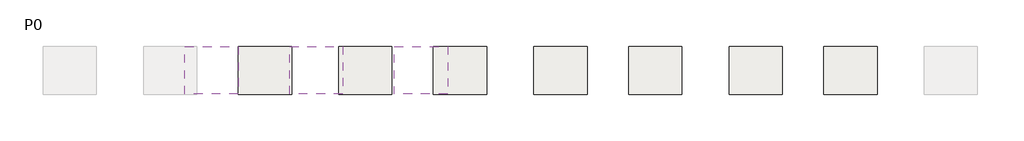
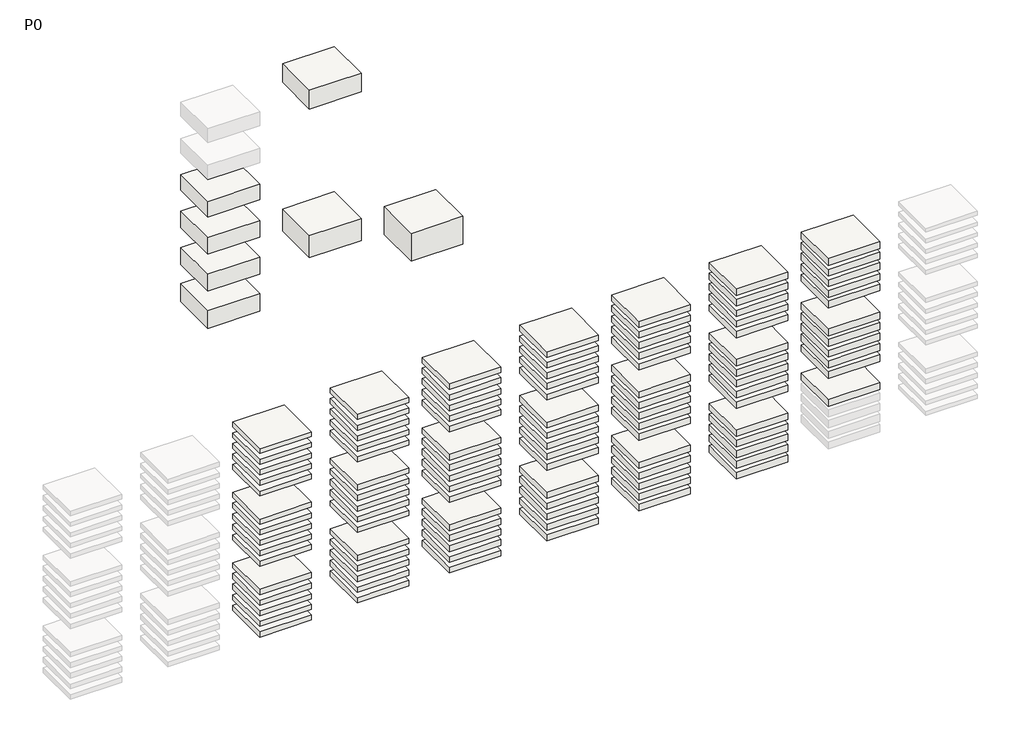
# One storey, part 2 of 11: 108 slabs.
"""IFC4 building model written with IfcOpenShell, lengths in millimetres."""

from ifc_helpers import new_model, si_unit, frame, origin, place, context, project, spatial, polyline, outline, extrude, element, save

model = new_model("IFC4")

# Units and contexts
model_context = context("Model", 3, world=origin())
ifc_project = project(units=[si_unit("LENGTHUNIT", "METRE", prefix="MILLI")], contexts=[model_context])

# Site, building, storey
site = spatial("IfcSite", under=ifc_project)
building = spatial("IfcBuilding", under=site)
storey = spatial("IfcBuildingStorey", under=building, Name="P0", Elevation=0.0)

# Slabs
placement = place(None, origin())
element("IfcSlab", 1, ObjectType="INTERCAPEDINE VENTILATA H85", at=placement, inside=storey, context=model_context, shape_type="SweptSolid", body=[
    extrude(outline(polyline([(-10155.6696558, 1686.0689128), (-10155.6696558, -1013.9310872), (-13155.6696558, -1013.9310872), (-13155.6696558, 1686.0689128), (-10155.6696558, 1686.0689128)])), frame((0.0, 0.0, 8050.0), z_axis=(0.0, 0.0, 1.0), x_axis=(1.0, 0.0, 0.0)), (0.0, 0.0, 1.0), 950.0),
])
element("IfcSlab", 2, ObjectType="INTERCAPEDINE VENTILATA H90", at=placement, inside=storey, context=model_context, shape_type="SweptSolid", body=[
    extrude(outline(polyline([(-10155.6696558, 1686.0689128), (-10155.6696558, -1013.9310872), (-13155.6696558, -1013.9310872), (-13155.6696558, 1686.0689128), (-10155.6696558, 1686.0689128)])), frame((0.0, 0.0, 5770.0000022), z_axis=(0.0, 0.0, 1.0), x_axis=(1.0, 0.0, 0.0)), (0.0, 0.0, 1.0), 1000.0),
])
element("IfcSlab", 3, ObjectType="INTERCAPEDINE VENTILATA H95", at=placement, inside=storey, context=model_context, shape_type="SweptSolid", body=[
    extrude(outline(polyline([(-10155.670068, 1686.0689128), (-10155.670068, -1013.9310872), (-13155.670068, -1013.9310872), (-13155.670068, 1686.0689128), (-10155.670068, 1686.0689128)])), frame((0.0, 0.0, 3490.0000022), z_axis=(0.0, 0.0, 1.0), x_axis=(1.0, 0.0, 0.0)), (0.0, 0.0, 1.0), 1050.0),
])
element("IfcSlab", 4, ObjectType="INTERCAPEDINE VENTILATA H100", at=placement, inside=storey, context=model_context, shape_type="SweptSolid", body=[
    extrude(outline(polyline([(-10156.1937558, 1686.0689128), (-10156.1937558, -1013.9310872), (-13156.1937558, -1013.9310872), (-13156.1937558, 1686.0689128), (-10156.1937558, 1686.0689128)])), frame((0.0, 0.0, 1210.0000022), z_axis=(0.0, 0.0, 1.0), x_axis=(1.0, 0.0, 0.0)), (0.0, 0.0, 1.0), 1100.0),
])
element("IfcSlab", 5, ObjectType="INTERCAPEDINE VENTILATA H105", at=placement, inside=storey, context=model_context, shape_type="SweptSolid", body=[
    extrude(outline(polyline([(-4256.1937558, 1686.0689128), (-4256.1937558, -1013.9310872), (-7256.1937558, -1013.9310872), (-7256.1937558, 1686.0689128), (-4256.1937558, 1686.0689128)])), frame((0.0, 0.0, 12610.0000022), z_axis=(0.0, 0.0, 1.0), x_axis=(1.0, 0.0, 0.0)), (0.0, 0.0, 1.0), 1150.0),
])
element("IfcSlab", 6, ObjectType="INTERCAPEDINE VENTILATA H125", at=placement, inside=storey, context=model_context, shape_type="SweptSolid", body=[
    extrude(outline(polyline([(-4256.1937558, 1686.0689128), (-4256.1937558, -1013.9310872), (-7256.1937558, -1013.9310872), (-7256.1937558, 1686.0689128), (-4256.1937558, 1686.0689128)])), frame((0.0, 0.0, 3490.0000022), z_axis=(0.0, 0.0, 1.0), x_axis=(1.0, 0.0, 0.0)), (0.0, 0.0, 1.0), 1350.0),
])
element("IfcSlab", 7, ObjectType="INTERCAPEDINE VENTILATA H160", at=placement, inside=storey, context=model_context, shape_type="SweptSolid", body=[
    extrude(outline(polyline([(1643.8062442, 1686.0689128), (1643.8062442, -1013.9310872), (-1356.1937558, -1013.9310872), (-1356.1937558, 1686.0689128), (1643.8062442, 1686.0689128)])), frame((0.0, 0.0, 1210.0000022), z_axis=(0.0, 0.0, 1.0), x_axis=(1.0, 0.0, 0.0)), (0.0, 0.0, 1.0), 1700.0),
])
element("IfcSlab", 8, ObjectType="NNEH16 H8", at=placement, inside=storey, context=model_context, shape_type="SweptSolid", body=[
    extrude(outline(polyline([(-7149.8435929, 1686.0689128), (-7149.8435929, -1013.9310872), (-10149.8435929, -1013.9310872), (-10149.8435929, 1686.0689128), (-7149.8435929, 1686.0689128)])), frame((0.0, 0.0, -7539.5322376), z_axis=(0.0, 0.0, 1.0), x_axis=(1.0, 0.0, 0.0)), (0.0, 0.0, 1.0), 298.0),
])
element("IfcSlab", 9, ObjectType="NNEH16 H8", at=placement, inside=storey, context=model_context, shape_type="SweptSolid", body=[
    extrude(outline(polyline([(-7149.8435929, 1686.0689128), (-7149.8435929, -1013.9310872), (-10149.8435929, -1013.9310872), (-10149.8435929, 1686.0689128), (-7149.8435929, 1686.0689128)])), frame((0.0, 0.0, -8189.5322376), z_axis=(0.0, 0.0, 1.0), x_axis=(1.0, 0.0, 0.0)), (0.0, 0.0, 1.0), 298.0),
])
element("IfcSlab", 10, ObjectType="NNEH16 H8", at=placement, inside=storey, context=model_context, shape_type="SweptSolid", body=[
    extrude(outline(polyline([(-7149.8435929, 1686.0689128), (-7149.8435929, -1013.9310872), (-10149.8435929, -1013.9310872), (-10149.8435929, 1686.0689128), (-7149.8435929, 1686.0689128)])), frame((0.0, 0.0, -8839.5322376), z_axis=(0.0, 0.0, 1.0), x_axis=(1.0, 0.0, 0.0)), (0.0, 0.0, 1.0), 298.0),
])
element("IfcSlab", 11, ObjectType="NNEH16 H8", at=placement, inside=storey, context=model_context, shape_type="SweptSolid", body=[
    extrude(outline(polyline([(-7149.8435929, 1686.0689128), (-7149.8435929, -1013.9310872), (-10149.8435929, -1013.9310872), (-10149.8435929, 1686.0689128), (-7149.8435929, 1686.0689128)])), frame((0.0, 0.0, -9489.5322376), z_axis=(0.0, 0.0, 1.0), x_axis=(1.0, 0.0, 0.0)), (0.0, 0.0, 1.0), 298.0),
])
element("IfcSlab", 12, ObjectType="NNEH16 H8", at=placement, inside=storey, context=model_context, shape_type="SweptSolid", body=[
    extrude(outline(polyline([(-7149.8435929, 1686.0689128), (-7149.8435929, -1013.9310872), (-10149.8435929, -1013.9310872), (-10149.8435929, 1686.0689128), (-7149.8435929, 1686.0689128)])), frame((0.0, 0.0, -10139.5323192), z_axis=(0.0, 0.0, 1.0), x_axis=(1.0, 0.0, 0.0)), (0.0, 0.0, 1.0), 298.0),
])
element("IfcSlab", 13, ObjectType="NNEH16 H9", at=placement, inside=storey, context=model_context, shape_type="SweptSolid", body=[
    extrude(outline(polyline([(-7149.8435929, 1686.0689128), (-7149.8435929, -1013.9310872), (-10149.8435929, -1013.9310872), (-10149.8435929, 1686.0689128), (-7149.8435929, 1686.0689128)])), frame((0.0, 0.0, -11869.532156), z_axis=(0.0, 0.0, 1.0), x_axis=(1.0, 0.0, 0.0)), (0.0, 0.0, 1.0), 308.0),
])
element("IfcSlab", 14, ObjectType="NNEH16 H9", at=placement, inside=storey, context=model_context, shape_type="SweptSolid", body=[
    extrude(outline(polyline([(-7149.8435929, 1686.0689128), (-7149.8435929, -1013.9310872), (-10149.8435929, -1013.9310872), (-10149.8435929, 1686.0689128), (-7149.8435929, 1686.0689128)])), frame((0.0, 0.0, -12519.532156), z_axis=(0.0, 0.0, 1.0), x_axis=(1.0, 0.0, 0.0)), (0.0, 0.0, 1.0), 308.0),
])
element("IfcSlab", 15, ObjectType="NNEH16 H9", at=placement, inside=storey, context=model_context, shape_type="SweptSolid", body=[
    extrude(outline(polyline([(-7149.8435929, 1686.0689128), (-7149.8435929, -1013.9310872), (-10149.8435929, -1013.9310872), (-10149.8435929, 1686.0689128), (-7149.8435929, 1686.0689128)])), frame((0.0, 0.0, -13169.532156), z_axis=(0.0, 0.0, 1.0), x_axis=(1.0, 0.0, 0.0)), (0.0, 0.0, 1.0), 308.0),
])
element("IfcSlab", 16, ObjectType="NNEH16 H9", at=placement, inside=storey, context=model_context, shape_type="SweptSolid", body=[
    extrude(outline(polyline([(-7149.8435929, 1686.0689128), (-7149.8435929, -1013.9310872), (-10149.8435929, -1013.9310872), (-10149.8435929, 1686.0689128), (-7149.8435929, 1686.0689128)])), frame((0.0, 0.0, -13819.532156), z_axis=(0.0, 0.0, 1.0), x_axis=(1.0, 0.0, 0.0)), (0.0, 0.0, 1.0), 308.0),
])
element("IfcSlab", 17, ObjectType="NNEH16 H9", at=placement, inside=storey, context=model_context, shape_type="SweptSolid", body=[
    extrude(outline(polyline([(-7149.8435929, 1686.0689128), (-7149.8435929, -1013.9310872), (-10149.8435929, -1013.9310872), (-10149.8435929, 1686.0689128), (-7149.8435929, 1686.0689128)])), frame((0.0, 0.0, -14469.532156), z_axis=(0.0, 0.0, 1.0), x_axis=(1.0, 0.0, 0.0)), (0.0, 0.0, 1.0), 308.0),
])
element("IfcSlab", 18, ObjectType="NNEH16 H10", at=placement, inside=storey, context=model_context, shape_type="SweptSolid", body=[
    extrude(outline(polyline([(-7149.8435929, 1686.0689128), (-7149.8435929, -1013.9310872), (-10149.8435929, -1013.9310872), (-10149.8435929, 1686.0689128), (-7149.8435929, 1686.0689128)])), frame((0.0, 0.0, -16199.5322376), z_axis=(0.0, 0.0, 1.0), x_axis=(1.0, 0.0, 0.0)), (0.0, 0.0, 1.0), 318.0),
])
element("IfcSlab", 19, ObjectType="NNEH16 H10", at=placement, inside=storey, context=model_context, shape_type="SweptSolid", body=[
    extrude(outline(polyline([(-7149.8435929, 1686.0689128), (-7149.8435929, -1013.9310872), (-10149.8435929, -1013.9310872), (-10149.8435929, 1686.0689128), (-7149.8435929, 1686.0689128)])), frame((0.0, 0.0, -16849.5322376), z_axis=(0.0, 0.0, 1.0), x_axis=(1.0, 0.0, 0.0)), (0.0, 0.0, 1.0), 318.0),
])
element("IfcSlab", 20, ObjectType="NNEH16 H10", at=placement, inside=storey, context=model_context, shape_type="SweptSolid", body=[
    extrude(outline(polyline([(-7149.8435929, 1686.0689128), (-7149.8435929, -1013.9310872), (-10149.8435929, -1013.9310872), (-10149.8435929, 1686.0689128), (-7149.8435929, 1686.0689128)])), frame((0.0, 0.0, -17499.5322376), z_axis=(0.0, 0.0, 1.0), x_axis=(1.0, 0.0, 0.0)), (0.0, 0.0, 1.0), 318.0),
])
element("IfcSlab", 21, ObjectType="NNEH16 H10", at=placement, inside=storey, context=model_context, shape_type="SweptSolid", body=[
    extrude(outline(polyline([(-7149.8435929, 1686.0689128), (-7149.8435929, -1013.9310872), (-10149.8435929, -1013.9310872), (-10149.8435929, 1686.0689128), (-7149.8435929, 1686.0689128)])), frame((0.0, 0.0, -18149.5322376), z_axis=(0.0, 0.0, 1.0), x_axis=(1.0, 0.0, 0.0)), (0.0, 0.0, 1.0), 318.0),
])
element("IfcSlab", 22, ObjectType="NNEH16 H10", at=placement, inside=storey, context=model_context, shape_type="SweptSolid", body=[
    extrude(outline(polyline([(-7149.8435929, 1686.0689128), (-7149.8435929, -1013.9310872), (-10149.8435929, -1013.9310872), (-10149.8435929, 1686.0689128), (-7149.8435929, 1686.0689128)])), frame((0.0, 0.0, -18799.5322376), z_axis=(0.0, 0.0, 1.0), x_axis=(1.0, 0.0, 0.0)), (0.0, 0.0, 1.0), 318.0),
])
element("IfcSlab", 23, ObjectType="NNEH20 H5", at=placement, inside=storey, context=model_context, shape_type="SweptSolid", body=[
    extrude(outline(polyline([(-1489.8435929, 1686.0689128), (-1489.8435929, -1013.9310872), (-4489.8435929, -1013.9310872), (-4489.8435929, 1686.0689128), (-1489.8435929, 1686.0689128)])), frame((0.0, 0.0, -7431.5323187), z_axis=(0.0, 0.0, 1.0), x_axis=(1.0, 0.0, 0.0)), (0.0, 0.0, 1.0), 308.0),
])
element("IfcSlab", 24, ObjectType="NNEH20 H5", at=placement, inside=storey, context=model_context, shape_type="SweptSolid", body=[
    extrude(outline(polyline([(-1489.8435929, 1686.0689128), (-1489.8435929, -1013.9310872), (-4489.8435929, -1013.9310872), (-4489.8435929, 1686.0689128), (-1489.8435929, 1686.0689128)])), frame((0.0, 0.0, -8081.5322371), z_axis=(0.0, 0.0, 1.0), x_axis=(1.0, 0.0, 0.0)), (0.0, 0.0, 1.0), 308.0),
])
element("IfcSlab", 25, ObjectType="NNEH20 H5", at=placement, inside=storey, context=model_context, shape_type="SweptSolid", body=[
    extrude(outline(polyline([(-1489.8435929, 1686.0689128), (-1489.8435929, -1013.9310872), (-4489.8435929, -1013.9310872), (-4489.8435929, 1686.0689128), (-1489.8435929, 1686.0689128)])), frame((0.0, 0.0, -8731.5322371), z_axis=(0.0, 0.0, 1.0), x_axis=(1.0, 0.0, 0.0)), (0.0, 0.0, 1.0), 308.0),
])
element("IfcSlab", 26, ObjectType="NNEH20 H5", at=placement, inside=storey, context=model_context, shape_type="SweptSolid", body=[
    extrude(outline(polyline([(-1489.8435929, 1686.0689128), (-1489.8435929, -1013.9310872), (-4489.8435929, -1013.9310872), (-4489.8435929, 1686.0689128), (-1489.8435929, 1686.0689128)])), frame((0.0, 0.0, -9381.5322371), z_axis=(0.0, 0.0, 1.0), x_axis=(1.0, 0.0, 0.0)), (0.0, 0.0, 1.0), 308.0),
])
element("IfcSlab", 27, ObjectType="NNEH20 H5", at=placement, inside=storey, context=model_context, shape_type="SweptSolid", body=[
    extrude(outline(polyline([(-1489.8435929, 1686.0689128), (-1489.8435929, -1013.9310872), (-4489.8435929, -1013.9310872), (-4489.8435929, 1686.0689128), (-1489.8435929, 1686.0689128)])), frame((0.0, 0.0, -10031.5322371), z_axis=(0.0, 0.0, 1.0), x_axis=(1.0, 0.0, 0.0)), (0.0, 0.0, 1.0), 308.0),
])
element("IfcSlab", 28, ObjectType="NNEH20 H6", at=placement, inside=storey, context=model_context, shape_type="SweptSolid", body=[
    extrude(outline(polyline([(-1489.8435929, 1686.0689128), (-1489.8435929, -1013.9310872), (-4489.8435929, -1013.9310872), (-4489.8435929, 1686.0689128), (-1489.8435929, 1686.0689128)])), frame((0.0, 0.0, -11761.5321555), z_axis=(0.0, 0.0, 1.0), x_axis=(1.0, 0.0, 0.0)), (0.0, 0.0, 1.0), 318.0),
])
element("IfcSlab", 29, ObjectType="NNEH20 H6", at=placement, inside=storey, context=model_context, shape_type="SweptSolid", body=[
    extrude(outline(polyline([(-1489.8435929, 1686.0689128), (-1489.8435929, -1013.9310872), (-4489.8435929, -1013.9310872), (-4489.8435929, 1686.0689128), (-1489.8435929, 1686.0689128)])), frame((0.0, 0.0, -12411.5321555), z_axis=(0.0, 0.0, 1.0), x_axis=(1.0, 0.0, 0.0)), (0.0, 0.0, 1.0), 318.0),
])
element("IfcSlab", 30, ObjectType="NNEH20 H6", at=placement, inside=storey, context=model_context, shape_type="SweptSolid", body=[
    extrude(outline(polyline([(-1489.8435929, 1686.0689128), (-1489.8435929, -1013.9310872), (-4489.8435929, -1013.9310872), (-4489.8435929, 1686.0689128), (-1489.8435929, 1686.0689128)])), frame((0.0, 0.0, -13061.5321555), z_axis=(0.0, 0.0, 1.0), x_axis=(1.0, 0.0, 0.0)), (0.0, 0.0, 1.0), 318.0),
])
element("IfcSlab", 31, ObjectType="NNEH20 H6", at=placement, inside=storey, context=model_context, shape_type="SweptSolid", body=[
    extrude(outline(polyline([(-1489.8435929, 1686.0689128), (-1489.8435929, -1013.9310872), (-4489.8435929, -1013.9310872), (-4489.8435929, 1686.0689128), (-1489.8435929, 1686.0689128)])), frame((0.0, 0.0, -13711.5321555), z_axis=(0.0, 0.0, 1.0), x_axis=(1.0, 0.0, 0.0)), (0.0, 0.0, 1.0), 318.0),
])
element("IfcSlab", 32, ObjectType="NNEH20 H6", at=placement, inside=storey, context=model_context, shape_type="SweptSolid", body=[
    extrude(outline(polyline([(-1489.8435929, 1686.0689128), (-1489.8435929, -1013.9310872), (-4489.8435929, -1013.9310872), (-4489.8435929, 1686.0689128), (-1489.8435929, 1686.0689128)])), frame((0.0, 0.0, -14361.5321555), z_axis=(0.0, 0.0, 1.0), x_axis=(1.0, 0.0, 0.0)), (0.0, 0.0, 1.0), 318.0),
])
element("IfcSlab", 33, ObjectType="NNEH20 H7", at=placement, inside=storey, context=model_context, shape_type="SweptSolid", body=[
    extrude(outline(polyline([(-1489.8435929, 1686.0689128), (-1489.8435929, -1013.9310872), (-4489.8435929, -1013.9310872), (-4489.8435929, 1686.0689128), (-1489.8435929, 1686.0689128)])), frame((0.0, 0.0, -16091.5322371), z_axis=(0.0, 0.0, 1.0), x_axis=(1.0, 0.0, 0.0)), (0.0, 0.0, 1.0), 328.0),
])
element("IfcSlab", 34, ObjectType="NNEH20 H7", at=placement, inside=storey, context=model_context, shape_type="SweptSolid", body=[
    extrude(outline(polyline([(-1489.8435929, 1686.0689128), (-1489.8435929, -1013.9310872), (-4489.8435929, -1013.9310872), (-4489.8435929, 1686.0689128), (-1489.8435929, 1686.0689128)])), frame((0.0, 0.0, -16741.5322371), z_axis=(0.0, 0.0, 1.0), x_axis=(1.0, 0.0, 0.0)), (0.0, 0.0, 1.0), 328.0),
])
element("IfcSlab", 35, ObjectType="NNEH20 H7", at=placement, inside=storey, context=model_context, shape_type="SweptSolid", body=[
    extrude(outline(polyline([(-1489.8435929, 1686.0689128), (-1489.8435929, -1013.9310872), (-4489.8435929, -1013.9310872), (-4489.8435929, 1686.0689128), (-1489.8435929, 1686.0689128)])), frame((0.0, 0.0, -17391.5322371), z_axis=(0.0, 0.0, 1.0), x_axis=(1.0, 0.0, 0.0)), (0.0, 0.0, 1.0), 328.0),
])
element("IfcSlab", 36, ObjectType="NNEH20 H7", at=placement, inside=storey, context=model_context, shape_type="SweptSolid", body=[
    extrude(outline(polyline([(-1489.8435929, 1686.0689128), (-1489.8435929, -1013.9310872), (-4489.8435929, -1013.9310872), (-4489.8435929, 1686.0689128), (-1489.8435929, 1686.0689128)])), frame((0.0, 0.0, -18041.5322371), z_axis=(0.0, 0.0, 1.0), x_axis=(1.0, 0.0, 0.0)), (0.0, 0.0, 1.0), 328.0),
])
element("IfcSlab", 37, ObjectType="NNEH20 H7", at=placement, inside=storey, context=model_context, shape_type="SweptSolid", body=[
    extrude(outline(polyline([(-1489.8435929, 1686.0689128), (-1489.8435929, -1013.9310872), (-4489.8435929, -1013.9310872), (-4489.8435929, 1686.0689128), (-1489.8435929, 1686.0689128)])), frame((0.0, 0.0, -18691.5322371), z_axis=(0.0, 0.0, 1.0), x_axis=(1.0, 0.0, 0.0)), (0.0, 0.0, 1.0), 328.0),
])
element("IfcSlab", 38, ObjectType="NNEH20 H8", at=placement, inside=storey, context=model_context, shape_type="SweptSolid", body=[
    extrude(outline(polyline([(3850.1564071, 1686.0689128), (3850.1564071, -1013.9310872), (850.1564071, -1013.9310872), (850.1564071, 1686.0689128), (3850.1564071, 1686.0689128)])), frame((0.0, 0.0, -7461.5322371), z_axis=(0.0, 0.0, 1.0), x_axis=(1.0, 0.0, 0.0)), (0.0, 0.0, 1.0), 338.0),
])
element("IfcSlab", 39, ObjectType="NNEH20 H8", at=placement, inside=storey, context=model_context, shape_type="SweptSolid", body=[
    extrude(outline(polyline([(3850.1564071, 1686.0689128), (3850.1564071, -1013.9310872), (850.1564071, -1013.9310872), (850.1564071, 1686.0689128), (3850.1564071, 1686.0689128)])), frame((0.0, 0.0, -8111.5322371), z_axis=(0.0, 0.0, 1.0), x_axis=(1.0, 0.0, 0.0)), (0.0, 0.0, 1.0), 338.0),
])
element("IfcSlab", 40, ObjectType="NNEH20 H8", at=placement, inside=storey, context=model_context, shape_type="SweptSolid", body=[
    extrude(outline(polyline([(3850.1564071, 1686.0689128), (3850.1564071, -1013.9310872), (850.1564071, -1013.9310872), (850.1564071, 1686.0689128), (3850.1564071, 1686.0689128)])), frame((0.0, 0.0, -8761.5322371), z_axis=(0.0, 0.0, 1.0), x_axis=(1.0, 0.0, 0.0)), (0.0, 0.0, 1.0), 338.0),
])
element("IfcSlab", 41, ObjectType="NNEH20 H8", at=placement, inside=storey, context=model_context, shape_type="SweptSolid", body=[
    extrude(outline(polyline([(3850.1564071, 1686.0689128), (3850.1564071, -1013.9310872), (850.1564071, -1013.9310872), (850.1564071, 1686.0689128), (3850.1564071, 1686.0689128)])), frame((0.0, 0.0, -9411.5322371), z_axis=(0.0, 0.0, 1.0), x_axis=(1.0, 0.0, 0.0)), (0.0, 0.0, 1.0), 338.0),
])
element("IfcSlab", 42, ObjectType="NNEH20 H8", at=placement, inside=storey, context=model_context, shape_type="SweptSolid", body=[
    extrude(outline(polyline([(3850.1564071, 1686.0689128), (3850.1564071, -1013.9310872), (850.1564071, -1013.9310872), (850.1564071, 1686.0689128), (3850.1564071, 1686.0689128)])), frame((0.0, 0.0, -10061.5322371), z_axis=(0.0, 0.0, 1.0), x_axis=(1.0, 0.0, 0.0)), (0.0, 0.0, 1.0), 338.0),
])
element("IfcSlab", 43, ObjectType="NNEH20 H9", at=placement, inside=storey, context=model_context, shape_type="SweptSolid", body=[
    extrude(outline(polyline([(3850.1564071, 1686.0689128), (3850.1564071, -1013.9310872), (850.1564071, -1013.9310872), (850.1564071, 1686.0689128), (3850.1564071, 1686.0689128)])), frame((0.0, 0.0, -11791.5321555), z_axis=(0.0, 0.0, 1.0), x_axis=(1.0, 0.0, 0.0)), (0.0, 0.0, 1.0), 348.0),
])
element("IfcSlab", 44, ObjectType="NNEH20 H9", at=placement, inside=storey, context=model_context, shape_type="SweptSolid", body=[
    extrude(outline(polyline([(3850.1564071, 1686.0689128), (3850.1564071, -1013.9310872), (850.1564071, -1013.9310872), (850.1564071, 1686.0689128), (3850.1564071, 1686.0689128)])), frame((0.0, 0.0, -12441.5321555), z_axis=(0.0, 0.0, 1.0), x_axis=(1.0, 0.0, 0.0)), (0.0, 0.0, 1.0), 348.0),
])
element("IfcSlab", 45, ObjectType="NNEH20 H9", at=placement, inside=storey, context=model_context, shape_type="SweptSolid", body=[
    extrude(outline(polyline([(3850.1564071, 1686.0689128), (3850.1564071, -1013.9310872), (850.1564071, -1013.9310872), (850.1564071, 1686.0689128), (3850.1564071, 1686.0689128)])), frame((0.0, 0.0, -13091.5321555), z_axis=(0.0, 0.0, 1.0), x_axis=(1.0, 0.0, 0.0)), (0.0, 0.0, 1.0), 348.0),
])
element("IfcSlab", 46, ObjectType="NNEH20 H9", at=placement, inside=storey, context=model_context, shape_type="SweptSolid", body=[
    extrude(outline(polyline([(3850.1564071, 1686.0689128), (3850.1564071, -1013.9310872), (850.1564071, -1013.9310872), (850.1564071, 1686.0689128), (3850.1564071, 1686.0689128)])), frame((0.0, 0.0, -13741.5321555), z_axis=(0.0, 0.0, 1.0), x_axis=(1.0, 0.0, 0.0)), (0.0, 0.0, 1.0), 348.0),
])
element("IfcSlab", 47, ObjectType="NNEH20 H9", at=placement, inside=storey, context=model_context, shape_type="SweptSolid", body=[
    extrude(outline(polyline([(3850.1564071, 1686.0689128), (3850.1564071, -1013.9310872), (850.1564071, -1013.9310872), (850.1564071, 1686.0689128), (3850.1564071, 1686.0689128)])), frame((0.0, 0.0, -14391.5321555), z_axis=(0.0, 0.0, 1.0), x_axis=(1.0, 0.0, 0.0)), (0.0, 0.0, 1.0), 348.0),
])
element("IfcSlab", 48, ObjectType="NNEH20 H10", at=placement, inside=storey, context=model_context, shape_type="SweptSolid", body=[
    extrude(outline(polyline([(3850.1564071, 1686.0689128), (3850.1564071, -1013.9310872), (850.1564071, -1013.9310872), (850.1564071, 1686.0689128), (3850.1564071, 1686.0689128)])), frame((0.0, 0.0, -16121.5322371), z_axis=(0.0, 0.0, 1.0), x_axis=(1.0, 0.0, 0.0)), (0.0, 0.0, 1.0), 358.0),
])
element("IfcSlab", 49, ObjectType="NNEH20 H10", at=placement, inside=storey, context=model_context, shape_type="SweptSolid", body=[
    extrude(outline(polyline([(3850.1564071, 1686.0689128), (3850.1564071, -1013.9310872), (850.1564071, -1013.9310872), (850.1564071, 1686.0689128), (3850.1564071, 1686.0689128)])), frame((0.0, 0.0, -16771.5322371), z_axis=(0.0, 0.0, 1.0), x_axis=(1.0, 0.0, 0.0)), (0.0, 0.0, 1.0), 358.0),
])
element("IfcSlab", 50, ObjectType="NNEH20 H10", at=placement, inside=storey, context=model_context, shape_type="SweptSolid", body=[
    extrude(outline(polyline([(3850.1564071, 1686.0689128), (3850.1564071, -1013.9310872), (850.1564071, -1013.9310872), (850.1564071, 1686.0689128), (3850.1564071, 1686.0689128)])), frame((0.0, 0.0, -17421.5322371), z_axis=(0.0, 0.0, 1.0), x_axis=(1.0, 0.0, 0.0)), (0.0, 0.0, 1.0), 358.0),
])
element("IfcSlab", 51, ObjectType="NNEH20 H10", at=placement, inside=storey, context=model_context, shape_type="SweptSolid", body=[
    extrude(outline(polyline([(3850.1564071, 1686.0689128), (3850.1564071, -1013.9310872), (850.1564071, -1013.9310872), (850.1564071, 1686.0689128), (3850.1564071, 1686.0689128)])), frame((0.0, 0.0, -18071.5322371), z_axis=(0.0, 0.0, 1.0), x_axis=(1.0, 0.0, 0.0)), (0.0, 0.0, 1.0), 358.0),
])
element("IfcSlab", 52, ObjectType="NNEH20 H10", at=placement, inside=storey, context=model_context, shape_type="SweptSolid", body=[
    extrude(outline(polyline([(3850.1564071, 1686.0689128), (3850.1564071, -1013.9310872), (850.1564071, -1013.9310872), (850.1564071, 1686.0689128), (3850.1564071, 1686.0689128)])), frame((0.0, 0.0, -18721.5322371), z_axis=(0.0, 0.0, 1.0), x_axis=(1.0, 0.0, 0.0)), (0.0, 0.0, 1.0), 358.0),
])
element("IfcSlab", 53, ObjectType="NNEH24 H5", at=placement, inside=storey, context=model_context, shape_type="SweptSolid", body=[
    extrude(outline(polyline([(9510.1564071, 1686.0689128), (9510.1564071, -1013.9310872), (6510.1564071, -1013.9310872), (6510.1564071, 1686.0689128), (9510.1564071, 1686.0689128)])), frame((0.0, 0.0, -7471.5323187), z_axis=(0.0, 0.0, 1.0), x_axis=(1.0, 0.0, 0.0)), (0.0, 0.0, 1.0), 348.0),
])
element("IfcSlab", 54, ObjectType="NNEH24 H5", at=placement, inside=storey, context=model_context, shape_type="SweptSolid", body=[
    extrude(outline(polyline([(9510.1564071, 1686.0689128), (9510.1564071, -1013.9310872), (6510.1564071, -1013.9310872), (6510.1564071, 1686.0689128), (9510.1564071, 1686.0689128)])), frame((0.0, 0.0, -8121.5322371), z_axis=(0.0, 0.0, 1.0), x_axis=(1.0, 0.0, 0.0)), (0.0, 0.0, 1.0), 348.0),
])
element("IfcSlab", 55, ObjectType="NNEH24 H5", at=placement, inside=storey, context=model_context, shape_type="SweptSolid", body=[
    extrude(outline(polyline([(9510.1564071, 1686.0689128), (9510.1564071, -1013.9310872), (6510.1564071, -1013.9310872), (6510.1564071, 1686.0689128), (9510.1564071, 1686.0689128)])), frame((0.0, 0.0, -8771.5322371), z_axis=(0.0, 0.0, 1.0), x_axis=(1.0, 0.0, 0.0)), (0.0, 0.0, 1.0), 348.0),
])
element("IfcSlab", 56, ObjectType="NNEH24 H5", at=placement, inside=storey, context=model_context, shape_type="SweptSolid", body=[
    extrude(outline(polyline([(9510.1564071, 1686.0689128), (9510.1564071, -1013.9310872), (6510.1564071, -1013.9310872), (6510.1564071, 1686.0689128), (9510.1564071, 1686.0689128)])), frame((0.0, 0.0, -9421.5322371), z_axis=(0.0, 0.0, 1.0), x_axis=(1.0, 0.0, 0.0)), (0.0, 0.0, 1.0), 348.0),
])
element("IfcSlab", 57, ObjectType="NNEH24 H5", at=placement, inside=storey, context=model_context, shape_type="SweptSolid", body=[
    extrude(outline(polyline([(9510.1564071, 1686.0689128), (9510.1564071, -1013.9310872), (6510.1564071, -1013.9310872), (6510.1564071, 1686.0689128), (9510.1564071, 1686.0689128)])), frame((0.0, 0.0, -10071.5322371), z_axis=(0.0, 0.0, 1.0), x_axis=(1.0, 0.0, 0.0)), (0.0, 0.0, 1.0), 348.0),
])
element("IfcSlab", 58, ObjectType="NNEH24 H6", at=placement, inside=storey, context=model_context, shape_type="SweptSolid", body=[
    extrude(outline(polyline([(9510.1564071, 1686.0689128), (9510.1564071, -1013.9310872), (6510.1564071, -1013.9310872), (6510.1564071, 1686.0689128), (9510.1564071, 1686.0689128)])), frame((0.0, 0.0, -11801.5321555), z_axis=(0.0, 0.0, 1.0), x_axis=(1.0, 0.0, 0.0)), (0.0, 0.0, 1.0), 358.0),
])
element("IfcSlab", 59, ObjectType="NNEH24 H6", at=placement, inside=storey, context=model_context, shape_type="SweptSolid", body=[
    extrude(outline(polyline([(9510.1564071, 1686.0689128), (9510.1564071, -1013.9310872), (6510.1564071, -1013.9310872), (6510.1564071, 1686.0689128), (9510.1564071, 1686.0689128)])), frame((0.0, 0.0, -12451.5321555), z_axis=(0.0, 0.0, 1.0), x_axis=(1.0, 0.0, 0.0)), (0.0, 0.0, 1.0), 358.0),
])
element("IfcSlab", 60, ObjectType="NNEH24 H6", at=placement, inside=storey, context=model_context, shape_type="SweptSolid", body=[
    extrude(outline(polyline([(9510.1564071, 1686.0689128), (9510.1564071, -1013.9310872), (6510.1564071, -1013.9310872), (6510.1564071, 1686.0689128), (9510.1564071, 1686.0689128)])), frame((0.0, 0.0, -13101.5321555), z_axis=(0.0, 0.0, 1.0), x_axis=(1.0, 0.0, 0.0)), (0.0, 0.0, 1.0), 358.0),
])
element("IfcSlab", 61, ObjectType="NNEH24 H6", at=placement, inside=storey, context=model_context, shape_type="SweptSolid", body=[
    extrude(outline(polyline([(9510.1564071, 1686.0689128), (9510.1564071, -1013.9310872), (6510.1564071, -1013.9310872), (6510.1564071, 1686.0689128), (9510.1564071, 1686.0689128)])), frame((0.0, 0.0, -13751.5321555), z_axis=(0.0, 0.0, 1.0), x_axis=(1.0, 0.0, 0.0)), (0.0, 0.0, 1.0), 358.0),
])
element("IfcSlab", 62, ObjectType="NNEH24 H6", at=placement, inside=storey, context=model_context, shape_type="SweptSolid", body=[
    extrude(outline(polyline([(9510.1564071, 1686.0689128), (9510.1564071, -1013.9310872), (6510.1564071, -1013.9310872), (6510.1564071, 1686.0689128), (9510.1564071, 1686.0689128)])), frame((0.0, 0.0, -14401.5321555), z_axis=(0.0, 0.0, 1.0), x_axis=(1.0, 0.0, 0.0)), (0.0, 0.0, 1.0), 358.0),
])
element("IfcSlab", 63, ObjectType="NNEH24 H7", at=placement, inside=storey, context=model_context, shape_type="SweptSolid", body=[
    extrude(outline(polyline([(9510.1564071, 1686.0689128), (9510.1564071, -1013.9310872), (6510.1564071, -1013.9310872), (6510.1564071, 1686.0689128), (9510.1564071, 1686.0689128)])), frame((0.0, 0.0, -16131.5322371), z_axis=(0.0, 0.0, 1.0), x_axis=(1.0, 0.0, 0.0)), (0.0, 0.0, 1.0), 368.0),
])
element("IfcSlab", 64, ObjectType="NNEH24 H7", at=placement, inside=storey, context=model_context, shape_type="SweptSolid", body=[
    extrude(outline(polyline([(9510.1564071, 1686.0689128), (9510.1564071, -1013.9310872), (6510.1564071, -1013.9310872), (6510.1564071, 1686.0689128), (9510.1564071, 1686.0689128)])), frame((0.0, 0.0, -16781.5322371), z_axis=(0.0, 0.0, 1.0), x_axis=(1.0, 0.0, 0.0)), (0.0, 0.0, 1.0), 368.0),
])
element("IfcSlab", 65, ObjectType="NNEH24 H7", at=placement, inside=storey, context=model_context, shape_type="SweptSolid", body=[
    extrude(outline(polyline([(9510.1564071, 1686.0689128), (9510.1564071, -1013.9310872), (6510.1564071, -1013.9310872), (6510.1564071, 1686.0689128), (9510.1564071, 1686.0689128)])), frame((0.0, 0.0, -17431.5322371), z_axis=(0.0, 0.0, 1.0), x_axis=(1.0, 0.0, 0.0)), (0.0, 0.0, 1.0), 368.0),
])
element("IfcSlab", 66, ObjectType="NNEH24 H7", at=placement, inside=storey, context=model_context, shape_type="SweptSolid", body=[
    extrude(outline(polyline([(9510.1564071, 1686.0689128), (9510.1564071, -1013.9310872), (6510.1564071, -1013.9310872), (6510.1564071, 1686.0689128), (9510.1564071, 1686.0689128)])), frame((0.0, 0.0, -18081.5322371), z_axis=(0.0, 0.0, 1.0), x_axis=(1.0, 0.0, 0.0)), (0.0, 0.0, 1.0), 368.0),
])
element("IfcSlab", 67, ObjectType="NNEH24 H7", at=placement, inside=storey, context=model_context, shape_type="SweptSolid", body=[
    extrude(outline(polyline([(9510.1564071, 1686.0689128), (9510.1564071, -1013.9310872), (6510.1564071, -1013.9310872), (6510.1564071, 1686.0689128), (9510.1564071, 1686.0689128)])), frame((0.0, 0.0, -18731.5322371), z_axis=(0.0, 0.0, 1.0), x_axis=(1.0, 0.0, 0.0)), (0.0, 0.0, 1.0), 368.0),
])
element("IfcSlab", 68, ObjectType="NNEH24 H8", at=placement, inside=storey, context=model_context, shape_type="SweptSolid", body=[
    extrude(outline(polyline([(14850.1564071, 1686.0689128), (14850.1564071, -1013.9310872), (11850.1564071, -1013.9310872), (11850.1564071, 1686.0689128), (14850.1564071, 1686.0689128)])), frame((0.0, 0.0, -7501.5322371), z_axis=(0.0, 0.0, 1.0), x_axis=(1.0, 0.0, 0.0)), (0.0, 0.0, 1.0), 378.0),
])
element("IfcSlab", 69, ObjectType="NNEH24 H8", at=placement, inside=storey, context=model_context, shape_type="SweptSolid", body=[
    extrude(outline(polyline([(14850.1564071, 1686.0689128), (14850.1564071, -1013.9310872), (11850.1564071, -1013.9310872), (11850.1564071, 1686.0689128), (14850.1564071, 1686.0689128)])), frame((0.0, 0.0, -8151.5322371), z_axis=(0.0, 0.0, 1.0), x_axis=(1.0, 0.0, 0.0)), (0.0, 0.0, 1.0), 378.0),
])
element("IfcSlab", 70, ObjectType="NNEH24 H8", at=placement, inside=storey, context=model_context, shape_type="SweptSolid", body=[
    extrude(outline(polyline([(14850.1564071, 1686.0689128), (14850.1564071, -1013.9310872), (11850.1564071, -1013.9310872), (11850.1564071, 1686.0689128), (14850.1564071, 1686.0689128)])), frame((0.0, 0.0, -8801.5322371), z_axis=(0.0, 0.0, 1.0), x_axis=(1.0, 0.0, 0.0)), (0.0, 0.0, 1.0), 378.0),
])
element("IfcSlab", 71, ObjectType="NNEH24 H8", at=placement, inside=storey, context=model_context, shape_type="SweptSolid", body=[
    extrude(outline(polyline([(14850.1564071, 1686.0689128), (14850.1564071, -1013.9310872), (11850.1564071, -1013.9310872), (11850.1564071, 1686.0689128), (14850.1564071, 1686.0689128)])), frame((0.0, 0.0, -9451.5322371), z_axis=(0.0, 0.0, 1.0), x_axis=(1.0, 0.0, 0.0)), (0.0, 0.0, 1.0), 378.0),
])
element("IfcSlab", 72, ObjectType="NNEH24 H8", at=placement, inside=storey, context=model_context, shape_type="SweptSolid", body=[
    extrude(outline(polyline([(14850.1564071, 1686.0689128), (14850.1564071, -1013.9310872), (11850.1564071, -1013.9310872), (11850.1564071, 1686.0689128), (14850.1564071, 1686.0689128)])), frame((0.0, 0.0, -10101.5322371), z_axis=(0.0, 0.0, 1.0), x_axis=(1.0, 0.0, 0.0)), (0.0, 0.0, 1.0), 378.0),
])
element("IfcSlab", 73, ObjectType="NNEH24 H9", at=placement, inside=storey, context=model_context, shape_type="SweptSolid", body=[
    extrude(outline(polyline([(14850.1564071, 1686.0689128), (14850.1564071, -1013.9310872), (11850.1564071, -1013.9310872), (11850.1564071, 1686.0689128), (14850.1564071, 1686.0689128)])), frame((0.0, 0.0, -11831.5321555), z_axis=(0.0, 0.0, 1.0), x_axis=(1.0, 0.0, 0.0)), (0.0, 0.0, 1.0), 388.0),
])
element("IfcSlab", 74, ObjectType="NNEH24 H9", at=placement, inside=storey, context=model_context, shape_type="SweptSolid", body=[
    extrude(outline(polyline([(14850.1564071, 1686.0689128), (14850.1564071, -1013.9310872), (11850.1564071, -1013.9310872), (11850.1564071, 1686.0689128), (14850.1564071, 1686.0689128)])), frame((0.0, 0.0, -12481.5321555), z_axis=(0.0, 0.0, 1.0), x_axis=(1.0, 0.0, 0.0)), (0.0, 0.0, 1.0), 388.0),
])
element("IfcSlab", 75, ObjectType="NNEH24 H9", at=placement, inside=storey, context=model_context, shape_type="SweptSolid", body=[
    extrude(outline(polyline([(14850.1564071, 1686.0689128), (14850.1564071, -1013.9310872), (11850.1564071, -1013.9310872), (11850.1564071, 1686.0689128), (14850.1564071, 1686.0689128)])), frame((0.0, 0.0, -13131.5321555), z_axis=(0.0, 0.0, 1.0), x_axis=(1.0, 0.0, 0.0)), (0.0, 0.0, 1.0), 388.0),
])
element("IfcSlab", 76, ObjectType="NNEH24 H9", at=placement, inside=storey, context=model_context, shape_type="SweptSolid", body=[
    extrude(outline(polyline([(14850.1564071, 1686.0689128), (14850.1564071, -1013.9310872), (11850.1564071, -1013.9310872), (11850.1564071, 1686.0689128), (14850.1564071, 1686.0689128)])), frame((0.0, 0.0, -13781.5321555), z_axis=(0.0, 0.0, 1.0), x_axis=(1.0, 0.0, 0.0)), (0.0, 0.0, 1.0), 388.0),
])
element("IfcSlab", 77, ObjectType="NNEH24 H9", at=placement, inside=storey, context=model_context, shape_type="SweptSolid", body=[
    extrude(outline(polyline([(14850.1564071, 1686.0689128), (14850.1564071, -1013.9310872), (11850.1564071, -1013.9310872), (11850.1564071, 1686.0689128), (14850.1564071, 1686.0689128)])), frame((0.0, 0.0, -14431.5321555), z_axis=(0.0, 0.0, 1.0), x_axis=(1.0, 0.0, 0.0)), (0.0, 0.0, 1.0), 388.0),
])
element("IfcSlab", 78, ObjectType="NNEH24 H10", at=placement, inside=storey, context=model_context, shape_type="SweptSolid", body=[
    extrude(outline(polyline([(14850.1564071, 1686.0689128), (14850.1564071, -1013.9310872), (11850.1564071, -1013.9310872), (11850.1564071, 1686.0689128), (14850.1564071, 1686.0689128)])), frame((0.0, 0.0, -16161.5322371), z_axis=(0.0, 0.0, 1.0), x_axis=(1.0, 0.0, 0.0)), (0.0, 0.0, 1.0), 398.0),
])
element("IfcSlab", 79, ObjectType="NNEH24 H10", at=placement, inside=storey, context=model_context, shape_type="SweptSolid", body=[
    extrude(outline(polyline([(14850.1564071, 1686.0689128), (14850.1564071, -1013.9310872), (11850.1564071, -1013.9310872), (11850.1564071, 1686.0689128), (14850.1564071, 1686.0689128)])), frame((0.0, 0.0, -16811.5322371), z_axis=(0.0, 0.0, 1.0), x_axis=(1.0, 0.0, 0.0)), (0.0, 0.0, 1.0), 398.0),
])
element("IfcSlab", 80, ObjectType="NNEH24 H10", at=placement, inside=storey, context=model_context, shape_type="SweptSolid", body=[
    extrude(outline(polyline([(14850.1564071, 1686.0689128), (14850.1564071, -1013.9310872), (11850.1564071, -1013.9310872), (11850.1564071, 1686.0689128), (14850.1564071, 1686.0689128)])), frame((0.0, 0.0, -17461.5322371), z_axis=(0.0, 0.0, 1.0), x_axis=(1.0, 0.0, 0.0)), (0.0, 0.0, 1.0), 398.0),
])
element("IfcSlab", 81, ObjectType="NNEH24 H10", at=placement, inside=storey, context=model_context, shape_type="SweptSolid", body=[
    extrude(outline(polyline([(14850.1564071, 1686.0689128), (14850.1564071, -1013.9310872), (11850.1564071, -1013.9310872), (11850.1564071, 1686.0689128), (14850.1564071, 1686.0689128)])), frame((0.0, 0.0, -18111.5322371), z_axis=(0.0, 0.0, 1.0), x_axis=(1.0, 0.0, 0.0)), (0.0, 0.0, 1.0), 398.0),
])
element("IfcSlab", 82, ObjectType="NNEH24 H10", at=placement, inside=storey, context=model_context, shape_type="SweptSolid", body=[
    extrude(outline(polyline([(14850.1564071, 1686.0689128), (14850.1564071, -1013.9310872), (11850.1564071, -1013.9310872), (11850.1564071, 1686.0689128), (14850.1564071, 1686.0689128)])), frame((0.0, 0.0, -18761.5322371), z_axis=(0.0, 0.0, 1.0), x_axis=(1.0, 0.0, 0.0)), (0.0, 0.0, 1.0), 398.0),
])
element("IfcSlab", 83, ObjectType="NNEH28 H5", at=placement, inside=storey, context=model_context, shape_type="SweptSolid", body=[
    extrude(outline(polyline([(20510.1564071, 1686.0689128), (20510.1564071, -1013.9310872), (17510.1564071, -1013.9310872), (17510.1564071, 1686.0689128), (20510.1564071, 1686.0689128)])), frame((0.0, 0.0, -7511.5323187), z_axis=(0.0, 0.0, 1.0), x_axis=(1.0, 0.0, 0.0)), (0.0, 0.0, 1.0), 388.0),
])
element("IfcSlab", 84, ObjectType="NNEH28 H5", at=placement, inside=storey, context=model_context, shape_type="SweptSolid", body=[
    extrude(outline(polyline([(20510.1564071, 1686.0689128), (20510.1564071, -1013.9310872), (17510.1564071, -1013.9310872), (17510.1564071, 1686.0689128), (20510.1564071, 1686.0689128)])), frame((0.0, 0.0, -8161.5322371), z_axis=(0.0, 0.0, 1.0), x_axis=(1.0, 0.0, 0.0)), (0.0, 0.0, 1.0), 388.0),
])
element("IfcSlab", 85, ObjectType="NNEH28 H5", at=placement, inside=storey, context=model_context, shape_type="SweptSolid", body=[
    extrude(outline(polyline([(20510.1564071, 1686.0689128), (20510.1564071, -1013.9310872), (17510.1564071, -1013.9310872), (17510.1564071, 1686.0689128), (20510.1564071, 1686.0689128)])), frame((0.0, 0.0, -8811.5322371), z_axis=(0.0, 0.0, 1.0), x_axis=(1.0, 0.0, 0.0)), (0.0, 0.0, 1.0), 388.0),
])
element("IfcSlab", 86, ObjectType="NNEH28 H5", at=placement, inside=storey, context=model_context, shape_type="SweptSolid", body=[
    extrude(outline(polyline([(20510.1564071, 1686.0689128), (20510.1564071, -1013.9310872), (17510.1564071, -1013.9310872), (17510.1564071, 1686.0689128), (20510.1564071, 1686.0689128)])), frame((0.0, 0.0, -9461.5322371), z_axis=(0.0, 0.0, 1.0), x_axis=(1.0, 0.0, 0.0)), (0.0, 0.0, 1.0), 388.0),
])
element("IfcSlab", 87, ObjectType="NNEH28 H5", at=placement, inside=storey, context=model_context, shape_type="SweptSolid", body=[
    extrude(outline(polyline([(20510.1564071, 1686.0689128), (20510.1564071, -1013.9310872), (17510.1564071, -1013.9310872), (17510.1564071, 1686.0689128), (20510.1564071, 1686.0689128)])), frame((0.0, 0.0, -10111.5322371), z_axis=(0.0, 0.0, 1.0), x_axis=(1.0, 0.0, 0.0)), (0.0, 0.0, 1.0), 388.0),
])
element("IfcSlab", 88, ObjectType="NNEH28 H6", at=placement, inside=storey, context=model_context, shape_type="SweptSolid", body=[
    extrude(outline(polyline([(20510.1564071, 1686.0689128), (20510.1564071, -1013.9310872), (17510.1564071, -1013.9310872), (17510.1564071, 1686.0689128), (20510.1564071, 1686.0689128)])), frame((0.0, 0.0, -11841.5321555), z_axis=(0.0, 0.0, 1.0), x_axis=(1.0, 0.0, 0.0)), (0.0, 0.0, 1.0), 398.0),
])
element("IfcSlab", 89, ObjectType="NNEH28 H6", at=placement, inside=storey, context=model_context, shape_type="SweptSolid", body=[
    extrude(outline(polyline([(20510.1564071, 1686.0689128), (20510.1564071, -1013.9310872), (17510.1564071, -1013.9310872), (17510.1564071, 1686.0689128), (20510.1564071, 1686.0689128)])), frame((0.0, 0.0, -12491.5321555), z_axis=(0.0, 0.0, 1.0), x_axis=(1.0, 0.0, 0.0)), (0.0, 0.0, 1.0), 398.0),
])
element("IfcSlab", 90, ObjectType="NNEH28 H6", at=placement, inside=storey, context=model_context, shape_type="SweptSolid", body=[
    extrude(outline(polyline([(20510.1564071, 1686.0689128), (20510.1564071, -1013.9310872), (17510.1564071, -1013.9310872), (17510.1564071, 1686.0689128), (20510.1564071, 1686.0689128)])), frame((0.0, 0.0, -13141.5321555), z_axis=(0.0, 0.0, 1.0), x_axis=(1.0, 0.0, 0.0)), (0.0, 0.0, 1.0), 398.0),
])
element("IfcSlab", 91, ObjectType="NNEH28 H6", at=placement, inside=storey, context=model_context, shape_type="SweptSolid", body=[
    extrude(outline(polyline([(20510.1564071, 1686.0689128), (20510.1564071, -1013.9310872), (17510.1564071, -1013.9310872), (17510.1564071, 1686.0689128), (20510.1564071, 1686.0689128)])), frame((0.0, 0.0, -13791.5321555), z_axis=(0.0, 0.0, 1.0), x_axis=(1.0, 0.0, 0.0)), (0.0, 0.0, 1.0), 398.0),
])
element("IfcSlab", 92, ObjectType="NNEH28 H6", at=placement, inside=storey, context=model_context, shape_type="SweptSolid", body=[
    extrude(outline(polyline([(20510.1564071, 1686.0689128), (20510.1564071, -1013.9310872), (17510.1564071, -1013.9310872), (17510.1564071, 1686.0689128), (20510.1564071, 1686.0689128)])), frame((0.0, 0.0, -14441.5321555), z_axis=(0.0, 0.0, 1.0), x_axis=(1.0, 0.0, 0.0)), (0.0, 0.0, 1.0), 398.0),
])
element("IfcSlab", 93, ObjectType="NNEH28 H7", at=placement, inside=storey, context=model_context, shape_type="SweptSolid", body=[
    extrude(outline(polyline([(20510.1564071, 1686.0689128), (20510.1564071, -1013.9310872), (17510.1564071, -1013.9310872), (17510.1564071, 1686.0689128), (20510.1564071, 1686.0689128)])), frame((0.0, 0.0, -16171.5322371), z_axis=(0.0, 0.0, 1.0), x_axis=(1.0, 0.0, 0.0)), (0.0, 0.0, 1.0), 408.0),
])
element("IfcSlab", 94, ObjectType="NNEH28 H7", at=placement, inside=storey, context=model_context, shape_type="SweptSolid", body=[
    extrude(outline(polyline([(20510.1564071, 1686.0689128), (20510.1564071, -1013.9310872), (17510.1564071, -1013.9310872), (17510.1564071, 1686.0689128), (20510.1564071, 1686.0689128)])), frame((0.0, 0.0, -16821.5322371), z_axis=(0.0, 0.0, 1.0), x_axis=(1.0, 0.0, 0.0)), (0.0, 0.0, 1.0), 408.0),
])
element("IfcSlab", 95, ObjectType="NNEH28 H7", at=placement, inside=storey, context=model_context, shape_type="SweptSolid", body=[
    extrude(outline(polyline([(20510.1564071, 1686.0689128), (20510.1564071, -1013.9310872), (17510.1564071, -1013.9310872), (17510.1564071, 1686.0689128), (20510.1564071, 1686.0689128)])), frame((0.0, 0.0, -17471.5322371), z_axis=(0.0, 0.0, 1.0), x_axis=(1.0, 0.0, 0.0)), (0.0, 0.0, 1.0), 408.0),
])
element("IfcSlab", 96, ObjectType="NNEH28 H7", at=placement, inside=storey, context=model_context, shape_type="SweptSolid", body=[
    extrude(outline(polyline([(20510.1564071, 1686.0689128), (20510.1564071, -1013.9310872), (17510.1564071, -1013.9310872), (17510.1564071, 1686.0689128), (20510.1564071, 1686.0689128)])), frame((0.0, 0.0, -18121.5322371), z_axis=(0.0, 0.0, 1.0), x_axis=(1.0, 0.0, 0.0)), (0.0, 0.0, 1.0), 408.0),
])
element("IfcSlab", 97, ObjectType="NNEH28 H7", at=placement, inside=storey, context=model_context, shape_type="SweptSolid", body=[
    extrude(outline(polyline([(20510.1564071, 1686.0689128), (20510.1564071, -1013.9310872), (17510.1564071, -1013.9310872), (17510.1564071, 1686.0689128), (20510.1564071, 1686.0689128)])), frame((0.0, 0.0, -18771.5322371), z_axis=(0.0, 0.0, 1.0), x_axis=(1.0, 0.0, 0.0)), (0.0, 0.0, 1.0), 408.0),
])
element("IfcSlab", 98, ObjectType="NNEH28 H8", at=placement, inside=storey, context=model_context, shape_type="SweptSolid", body=[
    extrude(outline(polyline([(25850.1564071, 1686.0689128), (25850.1564071, -1013.9310872), (22850.1564071, -1013.9310872), (22850.1564071, 1686.0689128), (25850.1564071, 1686.0689128)])), frame((0.0, 0.0, -7541.5322371), z_axis=(0.0, 0.0, 1.0), x_axis=(1.0, 0.0, 0.0)), (0.0, 0.0, 1.0), 418.0),
])
element("IfcSlab", 99, ObjectType="NNEH28 H8", at=placement, inside=storey, context=model_context, shape_type="SweptSolid", body=[
    extrude(outline(polyline([(25850.1564071, 1686.0689128), (25850.1564071, -1013.9310872), (22850.1564071, -1013.9310872), (22850.1564071, 1686.0689128), (25850.1564071, 1686.0689128)])), frame((0.0, 0.0, -8191.5322371), z_axis=(0.0, 0.0, 1.0), x_axis=(1.0, 0.0, 0.0)), (0.0, 0.0, 1.0), 418.0),
])
element("IfcSlab", 100, ObjectType="NNEH28 H8", at=placement, inside=storey, context=model_context, shape_type="SweptSolid", body=[
    extrude(outline(polyline([(25850.1564071, 1686.0689128), (25850.1564071, -1013.9310872), (22850.1564071, -1013.9310872), (22850.1564071, 1686.0689128), (25850.1564071, 1686.0689128)])), frame((0.0, 0.0, -8841.5322371), z_axis=(0.0, 0.0, 1.0), x_axis=(1.0, 0.0, 0.0)), (0.0, 0.0, 1.0), 418.0),
])
element("IfcSlab", 101, ObjectType="NNEH28 H8", at=placement, inside=storey, context=model_context, shape_type="SweptSolid", body=[
    extrude(outline(polyline([(25850.1564071, 1686.0689128), (25850.1564071, -1013.9310872), (22850.1564071, -1013.9310872), (22850.1564071, 1686.0689128), (25850.1564071, 1686.0689128)])), frame((0.0, 0.0, -9491.5322371), z_axis=(0.0, 0.0, 1.0), x_axis=(1.0, 0.0, 0.0)), (0.0, 0.0, 1.0), 418.0),
])
element("IfcSlab", 102, ObjectType="NNEH28 H8", at=placement, inside=storey, context=model_context, shape_type="SweptSolid", body=[
    extrude(outline(polyline([(25850.1564071, 1686.0689128), (25850.1564071, -1013.9310872), (22850.1564071, -1013.9310872), (22850.1564071, 1686.0689128), (25850.1564071, 1686.0689128)])), frame((0.0, 0.0, -10141.5322371), z_axis=(0.0, 0.0, 1.0), x_axis=(1.0, 0.0, 0.0)), (0.0, 0.0, 1.0), 418.0),
])
element("IfcSlab", 103, ObjectType="NNEH28 H9", at=placement, inside=storey, context=model_context, shape_type="SweptSolid", body=[
    extrude(outline(polyline([(25850.1564071, 1686.0689128), (25850.1564071, -1013.9310872), (22850.1564071, -1013.9310872), (22850.1564071, 1686.0689128), (25850.1564071, 1686.0689128)])), frame((0.0, 0.0, -11871.5321555), z_axis=(0.0, 0.0, 1.0), x_axis=(1.0, 0.0, 0.0)), (0.0, 0.0, 1.0), 428.0),
])
element("IfcSlab", 104, ObjectType="NNEH28 H9", at=placement, inside=storey, context=model_context, shape_type="SweptSolid", body=[
    extrude(outline(polyline([(25850.1564071, 1686.0689128), (25850.1564071, -1013.9310872), (22850.1564071, -1013.9310872), (22850.1564071, 1686.0689128), (25850.1564071, 1686.0689128)])), frame((0.0, 0.0, -12521.5321555), z_axis=(0.0, 0.0, 1.0), x_axis=(1.0, 0.0, 0.0)), (0.0, 0.0, 1.0), 428.0),
])
element("IfcSlab", 105, ObjectType="NNEH28 H9", at=placement, inside=storey, context=model_context, shape_type="SweptSolid", body=[
    extrude(outline(polyline([(25850.1564071, 1686.0689128), (25850.1564071, -1013.9310872), (22850.1564071, -1013.9310872), (22850.1564071, 1686.0689128), (25850.1564071, 1686.0689128)])), frame((0.0, 0.0, -13171.5321555), z_axis=(0.0, 0.0, 1.0), x_axis=(1.0, 0.0, 0.0)), (0.0, 0.0, 1.0), 428.0),
])
element("IfcSlab", 106, ObjectType="NNEH28 H9", at=placement, inside=storey, context=model_context, shape_type="SweptSolid", body=[
    extrude(outline(polyline([(25850.1564071, 1686.0689128), (25850.1564071, -1013.9310872), (22850.1564071, -1013.9310872), (22850.1564071, 1686.0689128), (25850.1564071, 1686.0689128)])), frame((0.0, 0.0, -13821.5321555), z_axis=(0.0, 0.0, 1.0), x_axis=(1.0, 0.0, 0.0)), (0.0, 0.0, 1.0), 428.0),
])
element("IfcSlab", 107, ObjectType="NNEH28 H9", at=placement, inside=storey, context=model_context, shape_type="SweptSolid", body=[
    extrude(outline(polyline([(25850.1564071, 1686.0689128), (25850.1564071, -1013.9310872), (22850.1564071, -1013.9310872), (22850.1564071, 1686.0689128), (25850.1564071, 1686.0689128)])), frame((0.0, 0.0, -14471.5321555), z_axis=(0.0, 0.0, 1.0), x_axis=(1.0, 0.0, 0.0)), (0.0, 0.0, 1.0), 428.0),
])
element("IfcSlab", 108, ObjectType="NNEH28 H10", at=placement, inside=storey, context=model_context, shape_type="SweptSolid", body=[
    extrude(outline(polyline([(25850.1564071, 1686.0689128), (25850.1564071, -1013.9310872), (22850.1564071, -1013.9310872), (22850.1564071, 1686.0689128), (25850.1564071, 1686.0689128)])), frame((0.0, 0.0, -16201.5322371), z_axis=(0.0, 0.0, 1.0), x_axis=(1.0, 0.0, 0.0)), (0.0, 0.0, 1.0), 438.0),
])

save(model, "model.ifc")
